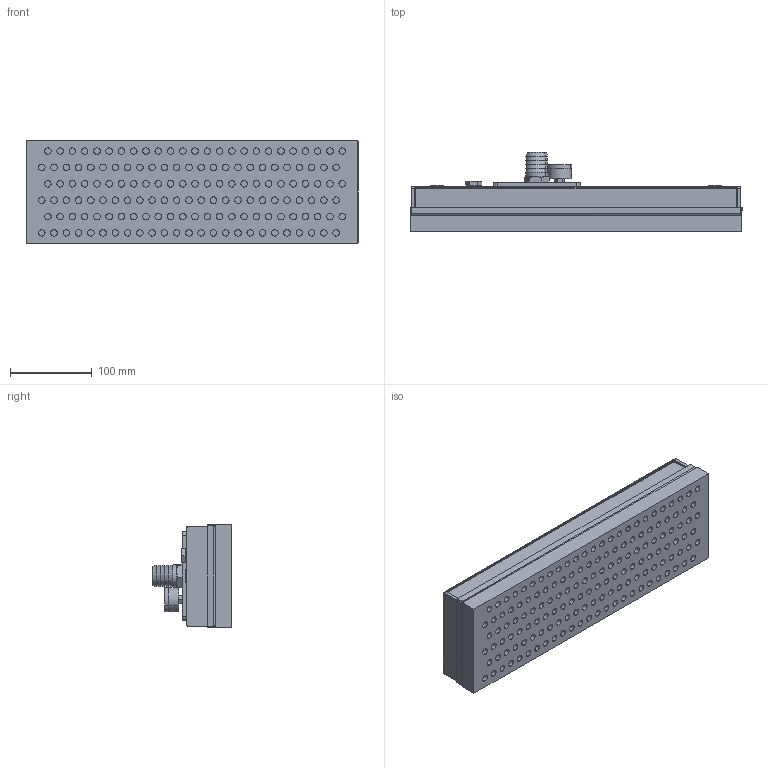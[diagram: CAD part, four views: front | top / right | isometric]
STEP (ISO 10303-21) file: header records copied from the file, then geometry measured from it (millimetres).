
FILE_DESCRIPTION (( 'STEP AP214' ), '1' );
FILE_NAME ('3-9-20268.STEP', '2012-08-30T07:55:09', ( 'cad' ), ( 'Microsoft' ), 'SwSTEP 2.0', 'SolidWorks 2012', '' );
FILE_SCHEMA (( 'AUTOMOTIVE_DESIGN' ));
Length unit declared in the file: millimetre
Products named in the file (1): 3-9-20268
Bounding box: 406 x 97 x 126 mm (x, y, z)
Volume: 2644056.3 mm3; surface area: 277494.2 mm2
Topology: 1 solids, 1 shells, 735 faces, 1583 edges, 1034 vertices
Faces by surface type: cylinder 366, plane 317, cone 30, bspline 14, torus 8
Entity records: 24035 total; most frequent: CARTESIAN_POINT 4367, DIRECTION 3747, ORIENTED_EDGE 3166, EDGE_CURVE 1583, AXIS2_PLACEMENT_3D 1502, VERTEX_POINT 1034, EDGE_LOOP 919, CIRCLE 780
